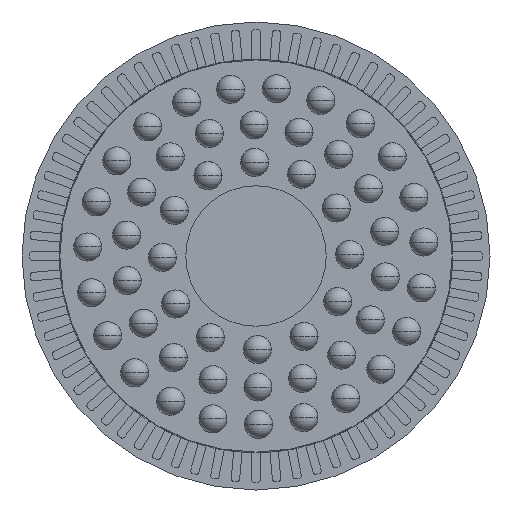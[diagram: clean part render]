
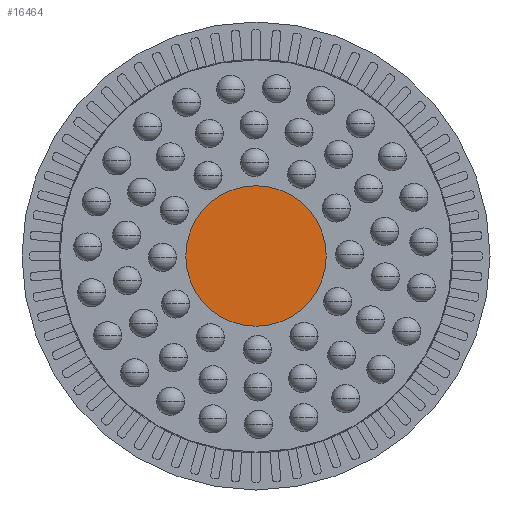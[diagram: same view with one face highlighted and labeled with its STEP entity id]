
A CAD part, front view. The second image highlights one B-rep face of the part: STEP entity #16464.
In plain terms, the highlighted planar face has unit normal (0, -1, 0) as drawn and (0, 0, -1) by its records, which use the part's own axes.
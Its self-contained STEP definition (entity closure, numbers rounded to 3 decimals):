
#12 = ORIENTED_EDGE ( 'NONE', *, *, #14247, .T. ) ;
#994 = CARTESIAN_POINT ( 'NONE',  ( 7.5, 0., 0. ) ) ;
#1427 = AXIS2_PLACEMENT_3D ( 'NONE', #15698, #5229, #17443 ) ;
#1825 = EDGE_CURVE ( 'NONE', #20675, #2250, #6675, .T. ) ;
#2073 = CIRCLE ( 'NONE', #8559, 7.5 ) ;
#2250 = VERTEX_POINT ( 'NONE', #994 ) ;
#2378 = PLANE ( 'NONE',  #5209 ) ;
#2928 = EDGE_LOOP ( 'NONE', ( #11632, #12 ) ) ;
#3336 = DIRECTION ( 'NONE',  ( 0., 0., -1. ) ) ;
#5209 = AXIS2_PLACEMENT_3D ( 'NONE', #14640, #16390, #5894 ) ;
#5229 = DIRECTION ( 'NONE',  ( 0., 0., -1. ) ) ;
#5894 = DIRECTION ( 'NONE',  ( 1., 0., 0. ) ) ;
#6675 = CIRCLE ( 'NONE', #1427, 7.5 ) ;
#6758 = CARTESIAN_POINT ( 'NONE',  ( -7.5, 0., 0. ) ) ;
#8559 = AXIS2_PLACEMENT_3D ( 'NONE', #13839, #3336, #15600 ) ;
#11632 = ORIENTED_EDGE ( 'NONE', *, *, #1825, .T. ) ;
#13839 = CARTESIAN_POINT ( 'NONE',  ( 0., 0., 0. ) ) ;
#14247 = EDGE_CURVE ( 'NONE', #2250, #20675, #2073, .T. ) ;
#14640 = CARTESIAN_POINT ( 'NONE',  ( 0., 0., 0. ) ) ;
#15600 = DIRECTION ( 'NONE',  ( -1., 0., 0. ) ) ;
#15698 = CARTESIAN_POINT ( 'NONE',  ( 0., 0., 0. ) ) ;
#16390 = DIRECTION ( 'NONE',  ( 0., 0., 1. ) ) ;
#16464 = ADVANCED_FACE ( 'NONE', ( #19019 ), #2378, .F. ) ;
#17443 = DIRECTION ( 'NONE',  ( -1., 0., 0. ) ) ;
#19019 = FACE_OUTER_BOUND ( 'NONE', #2928, .T. ) ;
#20675 = VERTEX_POINT ( 'NONE', #6758 ) ;
